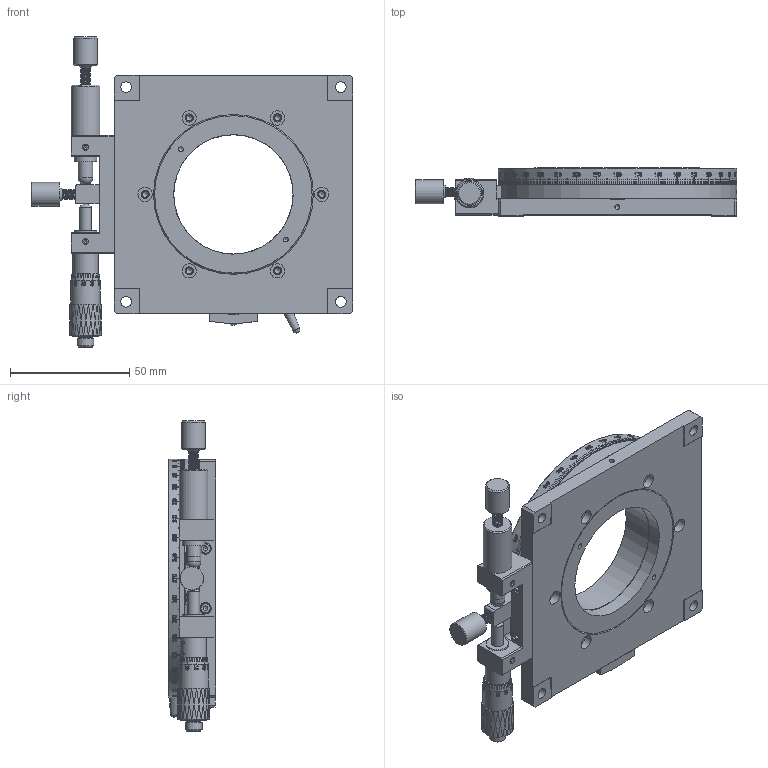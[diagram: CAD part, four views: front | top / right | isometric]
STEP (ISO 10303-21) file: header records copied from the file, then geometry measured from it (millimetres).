
FILE_DESCRIPTION (( 'STEP AP203' ), '1' );
FILE_NAME ('BPRT100-R.STEP', '2024-07-09T07:59:59', ( 'Windows User' ), ( 'P R C' ), 'SwSTEP 2.0', 'SolidWorks 2024', '' );
FILE_SCHEMA (( 'CONFIG_CONTROL_DESIGN' ));
Products named in the file (1): BPRT100-R
Bounding box: 134.7 x 20 x 130 mm (x, y, z)
Volume: 128484.8 mm3; surface area: 76182.4 mm2
Topology: 22 solids, 22 shells, 3335 faces, 8821 edges, 5820 vertices
Faces by surface type: plane 1612, bspline 770, cylinder 745, cone 197, torus 6, sphere 5
Full cylindrical faces by diameter (mm): 2 x2, 2.05 x6, 2.5 x15, 2.6 x1, 2.8 x2, 2.9 x5, 3 x2, 3.2 x1, 3.3 x10, 3.4 x6, 4 x2, 4.5 x6, 4.8 x2, 5 x6, 5.3 x1, 6 x8, 7 x1, 8 x4, 8.5 x1, 8.8 x1, 9.5 x5, 10 x2, 10.5 x1, 12 x1, 12.2 x1, 50 x1, 50.1 x1, 53 x1, 53.5 x1, 58.4 x1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
Entity records: 226643 total; most frequent: CARTESIAN_POINT 150646, ORIENTED_EDGE 16972, DIRECTION 13219, EDGE_CURVE 8486, VERTEX_POINT 5756, AXIS2_PLACEMENT_3D 4749, EDGE_LOOP 3960, VECTOR 3721
